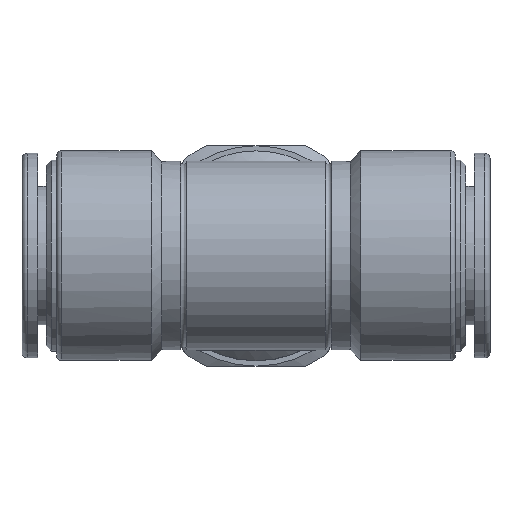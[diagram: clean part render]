
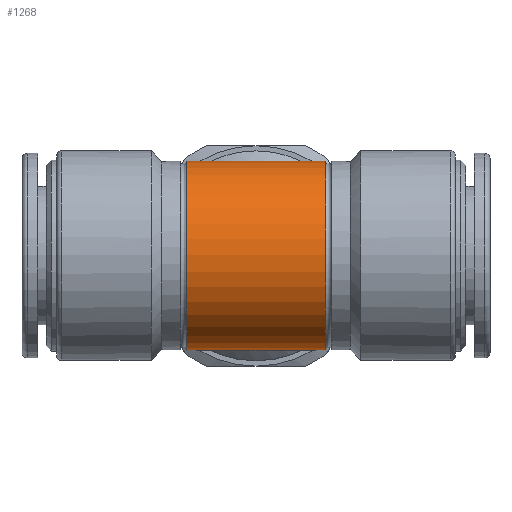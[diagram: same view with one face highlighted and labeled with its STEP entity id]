
A CAD part, top view. The second image highlights one B-rep face of the part: STEP entity #1268.
In plain terms, the highlighted cylindrical face has radius 9 mm (diameter 18 mm), a partial arc.
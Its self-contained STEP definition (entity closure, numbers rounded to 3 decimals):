
#23=ELLIPSE($,#1353,12.728,9.);
#24=ELLIPSE($,#1355,12.728,9.);
#27=ELLIPSE($,#1424,12.728,9.);
#28=ELLIPSE($,#1425,12.728,9.);
#219=CYLINDRICAL_SURFACE($,#1445,9.);
#296=FACE_OUTER_BOUND($,#409,.T.);
#409=EDGE_LOOP($,(#1152,#1153,#1154,#1155,#1156,#1157));
#447=CIRCLE($,#1340,9.);
#494=CIRCLE($,#1444,9.);
#581=VERTEX_POINT($,#2035);
#583=VERTEX_POINT($,#2043);
#591=VERTEX_POINT($,#2113);
#592=VERTEX_POINT($,#2114);
#634=VERTEX_POINT($,#2313);
#635=VERTEX_POINT($,#2322);
#720=EDGE_CURVE($,#581,#583,#447,.T.);
#731=EDGE_CURVE($,#591,#592,#23,.T.);
#733=EDGE_CURVE($,#583,#592,#24,.T.);
#797=EDGE_CURVE($,#635,#634,#27,.T.);
#798=EDGE_CURVE($,#635,#581,#28,.T.);
#818=EDGE_CURVE($,#634,#591,#494,.T.);
#1152=ORIENTED_EDGE($,*,*,#797,.T.);
#1153=ORIENTED_EDGE($,*,*,#818,.T.);
#1154=ORIENTED_EDGE($,*,*,#731,.T.);
#1155=ORIENTED_EDGE($,*,*,#733,.F.);
#1156=ORIENTED_EDGE($,*,*,#720,.F.);
#1157=ORIENTED_EDGE($,*,*,#798,.F.);
#1268=ADVANCED_FACE($,(#296),#219,.T.);
#1340=AXIS2_PLACEMENT_3D($,#2044,#1604,#1605);
#1353=AXIS2_PLACEMENT_3D($,#2115,#1631,#1632);
#1355=AXIS2_PLACEMENT_3D($,#2117,#1635,#1636);
#1424=AXIS2_PLACEMENT_3D($,#2323,#1786,#1787);
#1425=AXIS2_PLACEMENT_3D($,#2324,#1788,#1789);
#1444=AXIS2_PLACEMENT_3D($,#2370,#1834,#1835);
#1445=AXIS2_PLACEMENT_3D($,#2371,#1836,#1837);
#1604=DIRECTION('center_axis',(-1.,0.,0.));
#1605=DIRECTION('ref_axis',(0.,-1.,0.));
#1631=DIRECTION('center_axis',(0.707,0.,0.707));
#1632=DIRECTION('ref_axis',(0.707,0.,-0.707));
#1635=DIRECTION('center_axis',(0.707,0.,-0.707));
#1636=DIRECTION('ref_axis',(-0.707,0.,-0.707));
#1786=DIRECTION('center_axis',(0.707,0.,0.707));
#1787=DIRECTION('ref_axis',(0.707,0.,-0.707));
#1788=DIRECTION('center_axis',(0.707,0.,-0.707));
#1789=DIRECTION('ref_axis',(-0.707,0.,-0.707));
#1834=DIRECTION('center_axis',(-1.,0.,0.));
#1835=DIRECTION('ref_axis',(0.,-1.,0.));
#1836=DIRECTION('center_axis',(1.,0.,0.));
#1837=DIRECTION('ref_axis',(0.,-1.,0.));
#2035=CARTESIAN_POINT('',(-6.6,-6.119,-6.6));
#2043=CARTESIAN_POINT('',(-6.6,6.119,-6.6));
#2044=CARTESIAN_POINT('Origin',(-6.6,0.,0.));
#2113=CARTESIAN_POINT('',(6.6,6.119,-6.6));
#2114=CARTESIAN_POINT('',(0.,9.,0.));
#2115=CARTESIAN_POINT('Origin',(0.,0.,0.));
#2117=CARTESIAN_POINT('Origin',(0.,0.,0.));
#2313=CARTESIAN_POINT('',(6.6,-6.119,-6.6));
#2322=CARTESIAN_POINT('',(0.,-9.,0.));
#2323=CARTESIAN_POINT('Origin',(0.,0.,0.));
#2324=CARTESIAN_POINT('Origin',(0.,0.,0.));
#2370=CARTESIAN_POINT('Origin',(6.6,0.,0.));
#2371=CARTESIAN_POINT('Origin',(0.,0.,0.));
